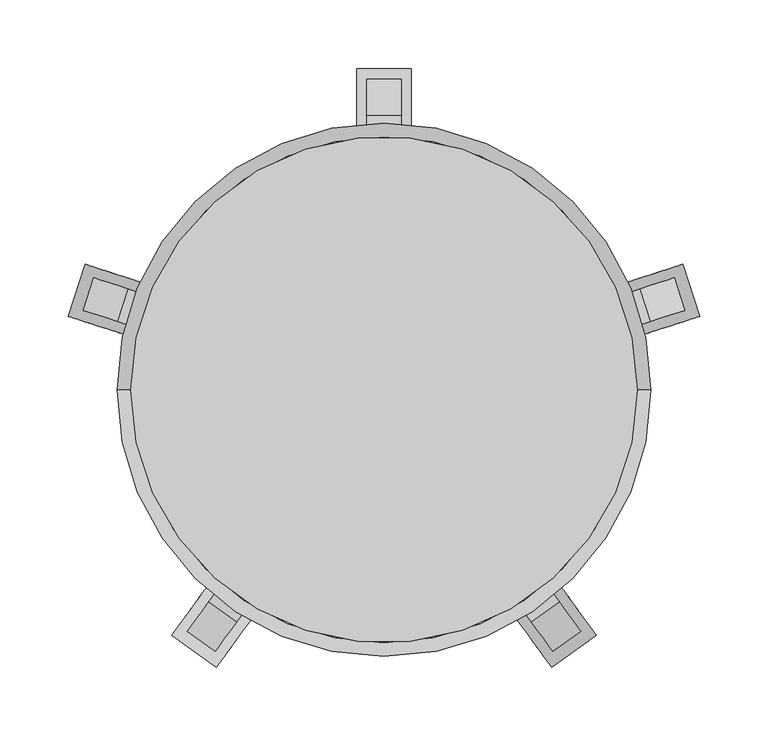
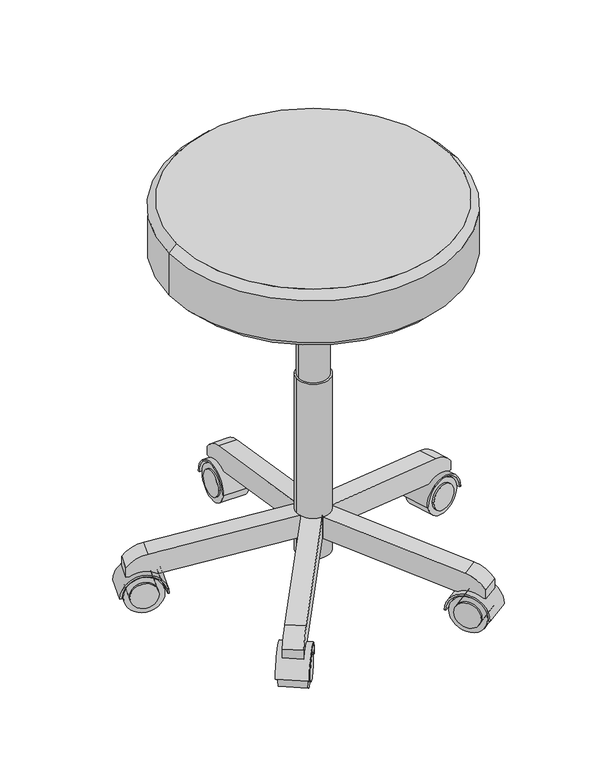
"""IFC4 building model written with IfcOpenShell, lengths in millimetres: proxy geometry, BIMHealth-Therapist_Stool-LOD2A-v1 : BIMHealth-Therapist_Stool-LOD2A-v1."""

import ifcopenshell
import ifcopenshell.guid

model = None  # the IFC model being written
_history = None  # IfcOwnerHistory: only IFC2X3 demands one
_inside = {}  # id of a spatial element -> (the spatial element, [elements in it])
_under = {}  # id of a project, library or spatial element -> (it, [spatial elements below it])
_declared = {}  # id of a project -> (the project, [libraries it declares])
_typed = {}  # id of a type object -> (the type object, [elements of that type])
_made_of = {}  # id of a material, layer set ... -> (it, [elements and type objects made of it])


def new_model(schema):
    """Start an empty IFC model of exactly this schema.

    Asked for "IFC4X3", IfcOpenShell would pick the latest addendum, in which some entities
    have other attributes; the version numbers below select the first issue.
    IFC2X3 requires an IfcOwnerHistory on every rooted entity: one is made here for all.
    """
    global model, _history
    if schema == "IFC4X3":
        model = ifcopenshell.file(schema_version=(4, 3, 0, 0))
    else:
        model = ifcopenshell.file(schema=schema)
    _inside.clear()
    _under.clear()
    _declared.clear()
    _typed.clear()
    _made_of.clear()
    _history = None
    if model.schema == "IFC2X3":
        org = make("IfcOrganization", Name="unknown")
        user = make(
            "IfcPersonAndOrganization",
            ThePerson=make("IfcPerson", FamilyName="unknown"),
            TheOrganization=org,
        )
        app = make(
            "IfcApplication",
            ApplicationDeveloper=org,
            Version="unknown",
            ApplicationFullName="unknown",
            ApplicationIdentifier="unknown",
        )
        _history = make(
            "IfcOwnerHistory",
            OwningUser=user,
            OwningApplication=app,
            ChangeAction="ADDED",
            CreationDate=0,
        )
    return model


def make(cls, **values):
    """One entity of the class cls with the attributes given. An attribute that is None is left unset."""
    return model.create_entity(
        cls, **{name: value for name, value in values.items() if value is not None}
    )


def rooted(cls, **values):
    """An entity with a GlobalId (a new one), such as an element, a storey or a relation."""
    return make(cls, GlobalId=ifcopenshell.guid.new(), OwnerHistory=_history, **values)


def si_unit(unit_type, name, prefix=None):
    """IfcSIUnit, for example si_unit("LENGTHUNIT", "METRE", prefix="MILLI")."""
    return make("IfcSIUnit", UnitType=unit_type, Prefix=prefix, Name=name)


def assignment(units):
    """IfcUnitAssignment: the units of a project."""
    return None if units is None else make("IfcUnitAssignment", Units=units)


def point(xyz):
    """IfcCartesianPoint."""
    return None if xyz is None else make("IfcCartesianPoint", Coordinates=xyz)


def direction(xyz):
    """IfcDirection."""
    return None if xyz is None else make("IfcDirection", DirectionRatios=xyz)


def frame(location, z_axis=None, x_axis=None):
    """IfcAxis2Placement3D, a coordinate frame: its origin and axes. An axis left out is left unset."""
    return make(
        "IfcAxis2Placement3D",
        Location=point(location),
        Axis=direction(z_axis),
        RefDirection=direction(x_axis),
    )


def frame_2d(location, x_axis=None):
    """IfcAxis2Placement2D, a coordinate frame in the plane: its origin and x axis."""
    return make(
        "IfcAxis2Placement2D", Location=point(location), RefDirection=direction(x_axis)
    )


def origin():
    """The frame at (0, 0, 0) with its axes left unset."""
    return frame((0.0, 0.0, 0.0))


def origin_2d():
    """The frame at (0, 0) in the plane with its x axis left unset."""
    return frame_2d((0.0, 0.0))


def place(relative_to, where):
    """IfcLocalPlacement: puts the frame where relative to a parent placement (None: the world)."""
    return make(
        "IfcLocalPlacement", PlacementRelTo=relative_to, RelativePlacement=where
    )


def context(
    kind, dimensions, precision=None, world=None, true_north=None, identifier=None
):
    """IfcGeometricRepresentationContext, for example the 3D "Model" context."""
    return make(
        "IfcGeometricRepresentationContext",
        ContextIdentifier=identifier,
        ContextType=kind,
        CoordinateSpaceDimension=dimensions,
        Precision=precision,
        WorldCoordinateSystem=world,
        TrueNorth=true_north,
    )


def project(units=None, contexts=None):
    """IfcProject with its units and contexts."""
    return rooted(
        "IfcProject",
        Name="project",
        RepresentationContexts=contexts,
        UnitsInContext=assignment(units),
    )


def spatial(cls, under=None, at=None, **own):
    """A site, building, storey or space (cls), placed at a placement, below another one or the project."""
    s = rooted(cls, ObjectPlacement=at, **own)
    if under is not None:
        _under.setdefault(under.id(), (under, []))[1].append(s)
    return s


def polyline(points):
    """IfcPolyline through the points."""
    return make("IfcPolyline", Points=[point(p) for p in points])


def circle_curve(where, radius):
    """IfcCircle in the frame where."""
    return make("IfcCircle", Position=where, Radius=radius)


def trimmed(basis, trim1, trim2, sense, master):
    """IfcTrimmedCurve: the piece of a basis curve between two trims."""
    return make(
        "IfcTrimmedCurve",
        BasisCurve=basis,
        Trim1=trim1,
        Trim2=trim2,
        SenseAgreement=sense,
        MasterRepresentation=master,
    )


def segment(curve, same_sense, transition):
    """IfcCompositeCurveSegment."""
    return make(
        "IfcCompositeCurveSegment",
        Transition=transition,
        SameSense=same_sense,
        ParentCurve=curve,
    )


def composite_curve(segments, self_intersect=None):
    """IfcCompositeCurve: segments joined end to end."""
    return make("IfcCompositeCurve", Segments=segments, SelfIntersect=self_intersect)


def outline(outer, holes=None, kind="AREA"):
    """IfcArbitraryClosedProfileDef: a profile drawn as a closed curve; with holes, ...WithVoids."""
    if holes is None:
        return make("IfcArbitraryClosedProfileDef", ProfileType=kind, OuterCurve=outer)
    return make(
        "IfcArbitraryProfileDefWithVoids",
        ProfileType=kind,
        OuterCurve=outer,
        InnerCurves=holes,
    )


def extrude(swept, where, along, depth):
    """IfcExtrudedAreaSolid: the profile swept, set in the frame where, extruded along a direction by depth."""
    return make(
        "IfcExtrudedAreaSolid",
        SweptArea=swept,
        Position=where,
        ExtrudedDirection=direction(along),
        Depth=depth,
    )


def faces_of(points, faces, orient=None, outer=None):
    """IfcFace entities. A face is a list of loops; a loop is a list of indices into points, from 0.

    orient and outer hold one flag for each loop. By default every Orientation is true, the
    first loop of a face is its IfcFaceOuterBound and the others are IfcFaceBound.
    """
    made = []
    for i, loops in enumerate(faces):
        bounds = []
        for j, loop in enumerate(loops):
            is_outer = j == 0 if outer is None else outer[i][j]
            bounds.append(
                make(
                    "IfcFaceOuterBound" if is_outer else "IfcFaceBound",
                    Bound=make("IfcPolyLoop", Polygon=[points[k] for k in loop]),
                    Orientation=True if orient is None else orient[i][j],
                )
            )
        made.append(make("IfcFace", Bounds=bounds))
    return made


def faceted_brep(points, faces, orient=None, outer=None, voids=None):
    """IfcFacetedBrep: a solid bounded by flat faces; with voids (closed shells), ...WithVoids."""
    shared = [point(p) for p in points]
    hull = make("IfcClosedShell", CfsFaces=faces_of(shared, faces, orient, outer))
    if voids is None:
        return make("IfcFacetedBrep", Outer=hull)
    return make(
        "IfcFacetedBrepWithVoids",
        Outer=hull,
        Voids=[
            make(cls, CfsFaces=faces_of(shared, fs, o, b)) for cls, fs, o, b in voids
        ],
    )


def shape(context_of_items, identifier, shape_type, items):
    """IfcShapeRepresentation: the items that make up one representation, for example the "Body"."""
    return make(
        "IfcShapeRepresentation",
        ContextOfItems=context_of_items,
        RepresentationIdentifier=identifier,
        RepresentationType=shape_type,
        Items=items,
    )


def source(mapping_origin, context_of_items, identifier, shape_type, items):
    """IfcRepresentationMap: a shape defined once, which mapped items show again and again."""
    return make(
        "IfcRepresentationMap",
        MappingOrigin=mapping_origin,
        MappedRepresentation=shape(context_of_items, identifier, shape_type, items),
    )


def transform(
    local_origin,
    x_axis=None,
    y_axis=None,
    z_axis=None,
    scale=None,
    scale2=None,
    scale3=None,
    uniform=True,
):
    """IfcCartesianTransformationOperator3D, or its non-uniform kind. x_axis, y_axis, z_axis: its Axis1, 2, 3."""
    if uniform:
        return make(
            "IfcCartesianTransformationOperator3D",
            Axis1=direction(x_axis),
            Axis2=direction(y_axis),
            LocalOrigin=point(local_origin),
            Scale=scale,
            Axis3=direction(z_axis),
        )
    return make(
        "IfcCartesianTransformationOperator3DnonUniform",
        Axis1=direction(x_axis),
        Axis2=direction(y_axis),
        LocalOrigin=point(local_origin),
        Scale=scale,
        Axis3=direction(z_axis),
        Scale2=scale2,
        Scale3=scale3,
    )


def mapped(mapping_source, mapping_target):
    """IfcMappedItem: shows the shape of a source again, moved by a transform."""
    return make(
        "IfcMappedItem", MappingSource=mapping_source, MappingTarget=mapping_target
    )


def made_of(thing, what):
    """Note that an element or type object is made of a material, layer set ...; save() writes the relation."""
    if what is not None:
        _made_of.setdefault(what.id(), (what, []))[1].append(thing)
    return thing


def element(
    cls,
    number,
    at=None,
    inside=None,
    cuts=None,
    type_object=None,
    material=None,
    context=None,
    identifier="Body",
    shape_type=None,
    held_by="IfcProductDefinitionShape",
    body=None,
    shapes=None,
    **own,
):
    """One element of the class cls, such as IfcWall. Its Tag is "e" and its number.

    at: its placement. inside: the storey or other place that contains it. cuts: it is an
    opening in that element (IfcRelVoidsElement). A single representation is given by context,
    identifier, shape_type and body (its items); several are given by shapes. held_by: the class
    of the entity that holds the representations. save() writes the other relations.
    """
    e = rooted(cls, Tag="e%d" % number, ObjectPlacement=at, **own)
    if body is not None:
        shapes = [shape(context, identifier, shape_type, body)]
    if shapes is not None:
        e.Representation = make(held_by, Representations=shapes)
    if inside is not None:
        _inside.setdefault(inside.id(), (inside, []))[1].append(e)
    if cuts is not None:
        rooted(
            "IfcRelVoidsElement", RelatingBuildingElement=cuts, RelatedOpeningElement=e
        )
    if type_object is not None:
        _typed.setdefault(type_object.id(), (type_object, []))[1].append(e)
    return made_of(e, material)


def aggregate(whole, parts):
    """IfcRelAggregates: a whole, such as a stair, and the parts it consists of."""
    return rooted("IfcRelAggregates", RelatingObject=whole, RelatedObjects=parts)


def save(model, path):
    """Write the relations noted so far, then the file.

    IfcRelAggregates (storeys below a building ...), IfcRelContainedInSpatialStructure (elements
    in a storey), IfcRelDefinesByType, IfcRelAssociatesMaterial and IfcRelDeclares: one each for
    every whole, place, type object, material and project.
    """
    for whole, parts in _under.values():
        aggregate(whole, parts)
    for where, things in _inside.values():
        rooted(
            "IfcRelContainedInSpatialStructure",
            RelatedElements=things,
            RelatingStructure=where,
        )
    for kind, things in _typed.values():
        rooted("IfcRelDefinesByType", RelatedObjects=things, RelatingType=kind)
    for what, things in _made_of.values():
        rooted("IfcRelAssociatesMaterial", RelatedObjects=things, RelatingMaterial=what)
    for by, libraries in _declared.values():
        rooted("IfcRelDeclares", RelatingContext=by, RelatedDefinitions=libraries)
    model.write(path)


def plane_surface(at):
    """IfcPlane: the flat surface through the origin of the frame at, square to its z axis."""
    return make("IfcPlane", Position=at)


def cylinder_surface(at, radius):
    """IfcCylindricalSurface: all points at the distance radius from the z axis of the frame at."""
    return make("IfcCylindricalSurface", Position=at, Radius=radius)


def revolved_surface(curve, axis_point, axis_direction):
    """IfcSurfaceOfRevolution: the curve turned about the line through axis_point along axis_direction."""
    return make(
        "IfcSurfaceOfRevolution",
        SweptCurve=make("IfcArbitraryOpenProfileDef", ProfileType="CURVE", Curve=curve),
        AxisPosition=make("IfcAxis1Placement", Location=point(axis_point), Axis=direction(axis_direction)),
    )


def advanced_brep(points, edges, surfaces, faces):
    """IfcAdvancedBrep: a solid bounded by faces that lie on surfaces and meet in shared edges.

    An edge is (start, end): straight between two places in points (the first is 0);
    or (start, end, curve); or (start, end, curve, False) where it runs against its curve.
    A face is (place in surfaces, loops), or (place, loops, False) where it looks against
    its surface's normal. A loop lists edges by number (the first is 1), with a minus sign
    where the edge is run from its end to its start. The first loop is the outer one.
    """
    corners = [point(p) for p in points]
    vertices = [make("IfcVertexPoint", VertexGeometry=c) for c in corners]
    made = []
    for start, end, *more in edges:
        made.append(
            make(
                "IfcEdgeCurve",
                EdgeStart=vertices[start],
                EdgeEnd=vertices[end],
                EdgeGeometry=more[0] if more else make("IfcPolyline", Points=[corners[start], corners[end]]),
                SameSense=more[1] if len(more) > 1 else True,
            )
        )
    hull = []
    for where, loops, *sense in faces:
        bounds = []
        for j, loop in enumerate(loops):
            ring = [make("IfcOrientedEdge", EdgeElement=made[abs(k) - 1], Orientation=k > 0) for k in loop]
            bounds.append(
                make(
                    "IfcFaceOuterBound" if j == 0 else "IfcFaceBound",
                    Bound=make("IfcEdgeLoop", EdgeList=ring),
                    Orientation=True,
                )
            )
        hull.append(make("IfcAdvancedFace", Bounds=bounds, FaceSurface=surfaces[where], SameSense=sense[0] if sense else True))
    return make("IfcAdvancedBrep", Outer=make("IfcClosedShell", CfsFaces=hull))


def generic_models_e5edc786(model_context):
    return source(origin(), model_context, "Body", "SolidModel", [
        extrude(outline(composite_curve([segment(trimmed(circle_curve(frame_2d((0.0, -17.5000001)), 17.5), [point((0.0, -35.0))], [point((0.0, 0.0))], False, "CARTESIAN"), True, "CONTINUOUS"), segment(trimmed(circle_curve(frame_2d((0.0, -17.5000001)), 17.5), [point((0.0, 0.0))], [point((0.0, -35.0))], False, "CARTESIAN"), True, "CONTINUOUS")], self_intersect=False)), frame((-185.942293, 39.3870689, 25.0), z_axis=(0.3090169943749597, 0.9510565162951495, 0.0), x_axis=(0.0, 0.0, 1.0)), (0.0, 0.0, 1.0), 40.0),
        extrude(outline(composite_curve([segment(trimmed(circle_curve(frame_2d((29.5, 0.0)), 27.5), [point((2.0, 0.0))], [point((57.0, 0.0))], True, "CARTESIAN"), True, "CONTINUOUS"), segment(polyline([(57.0, 0.0), (59.0, 0.0)]), True, "CONTINUOUS"), segment(trimmed(circle_curve(frame_2d((29.5, 0.0)), 29.5), [point((59.0, 0.0))], [point((0.0, 0.0))], False, "CARTESIAN"), True, "CONTINUOUS"), segment(polyline([(0.0, 0.0), (2.0, 0.0)]), True, "CONTINUOUS")], self_intersect=False)), frame((-230.6419493, 53.9108676, 25.0), z_axis=(0.3090169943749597, 0.9510565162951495, 0.0), x_axis=(0.9510565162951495, -0.3090169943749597, 0.0)), (0.0, 0.0, 1.0), 40.0),
        extrude(outline(composite_curve([segment(trimmed(circle_curve(frame_2d((0.0, -25.0)), 25.0), [point((0.0, -50.0))], [point((0.0, 0.0))], False, "CARTESIAN"), True, "CONTINUOUS"), segment(trimmed(circle_curve(frame_2d((0.0, -25.0)), 25.0), [point((0.0, 0.0))], [point((0.0, -50.0))], False, "CARTESIAN"), True, "CONTINUOUS")], self_intersect=False), holes=[composite_curve([segment(trimmed(circle_curve(frame_2d((0.0, -25.0)), 17.5), [point((0.0, -42.5))], [point((0.0, -7.4999999))], True, "CARTESIAN"), True, "CONTINUOUS"), segment(trimmed(circle_curve(frame_2d((0.0, -25.0)), 17.5), [point((0.0, -7.4999999))], [point((0.0, -42.5))], True, "CARTESIAN"), True, "CONTINUOUS")], self_intersect=False)]), frame((-178.0368267, 39.4470827, 25.0), z_axis=(0.3090169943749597, 0.9510565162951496, 0.0), x_axis=(0.0, 0.0, 1.0)), (0.0, 0.0, 1.0), 35.0),
        extrude(outline(composite_curve([segment(trimmed(circle_curve(frame_2d((0.0, -17.5000001)), 17.5), [point((0.0, -35.0))], [point((0.0, 0.0))], False, "CARTESIAN"), True, "CONTINUOUS"), segment(trimmed(circle_curve(frame_2d((0.0, -17.5000001)), 17.5), [point((0.0, 0.0))], [point((0.0, -35.0))], False, "CARTESIAN"), True, "CONTINUOUS")], self_intersect=False)), frame((185.942293, 39.3870689, 25.0), z_axis=(-0.3090169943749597, 0.9510565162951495, 0.0), x_axis=(0.0, 0.0, -1.0)), (0.0, 0.0, 1.0), 40.0),
        extrude(outline(composite_curve([segment(polyline([(0.0, 55.0), (0.0, 57.0)]), True, "CONTINUOUS"), segment(trimmed(circle_curve(frame_2d((0.0, 27.5)), 29.5), [point((0.0, 57.0))], [point((0.0, -2.0))], False, "CARTESIAN"), True, "CONTINUOUS"), segment(polyline([(0.0, -2.0), (0.0, 0.0)]), True, "CONTINUOUS"), segment(trimmed(circle_curve(frame_2d((0.0, 27.5)), 27.5), [point((0.0, 0.0))], [point((0.0, 55.0))], True, "CARTESIAN"), True, "CONTINUOUS")], self_intersect=False)), frame((176.4317279, 36.2968989, 25.0), z_axis=(-0.3090169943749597, 0.9510565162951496, 0.0), x_axis=(0.0, 0.0, 1.0)), (0.0, 0.0, 1.0), 40.0),
        extrude(outline(composite_curve([segment(trimmed(circle_curve(frame_2d((0.0, -25.0)), 25.0), [point((0.0, -50.0))], [point((0.0, 0.0))], False, "CARTESIAN"), True, "CONTINUOUS"), segment(trimmed(circle_curve(frame_2d((0.0, -25.0)), 25.0), [point((0.0, 0.0))], [point((0.0, -50.0))], False, "CARTESIAN"), True, "CONTINUOUS")], self_intersect=False), holes=[composite_curve([segment(trimmed(circle_curve(frame_2d((0.0, -25.0)), 17.5), [point((0.0, -42.5))], [point((0.0, -7.4999999))], True, "CARTESIAN"), True, "CONTINUOUS"), segment(trimmed(circle_curve(frame_2d((0.0, -25.0)), 17.5), [point((0.0, -7.4999999))], [point((0.0, -42.5))], True, "CARTESIAN"), True, "CONTINUOUS")], self_intersect=False)]), frame((178.0368267, 39.4470827, 25.0), z_axis=(-0.3090169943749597, 0.9510565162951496, 0.0), x_axis=(0.0, 0.0, -1.0)), (0.0, 0.0, 1.0), 35.0),
        extrude(outline(composite_curve([segment(trimmed(circle_curve(frame_2d((0.0, -17.5)), 17.5), [point((0.0, -35.0))], [point((0.0, 0.0))], False, "CARTESIAN"), True, "CONTINUOUS"), segment(trimmed(circle_curve(frame_2d((0.0, -17.5)), 17.5), [point((0.0, 0.0))], [point((0.0, -35.0))], False, "CARTESIAN"), True, "CONTINUOUS")], self_intersect=False)), frame((95.0093576, -164.7951944, 25.0), z_axis=(0.8090169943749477, 0.5877852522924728, 0.0), x_axis=(0.0, 0.0, -1.0)), (0.0, 0.0, 1.0), 40.0),
        extrude(outline(composite_curve([segment(polyline([(-2.0, 0.0), (0.0, 0.0)]), True, "CONTINUOUS"), segment(trimmed(circle_curve(frame_2d((-29.5000001, 0.0)), 29.5), [point((0.0, 0.0))], [point((-59.0, 0.0))], False, "CARTESIAN"), True, "CONTINUOUS"), segment(polyline([(-59.0, 0.0), (-57.0, 0.0)]), True, "CONTINUOUS"), segment(trimmed(circle_curve(frame_2d((-29.5000001, 0.0)), 27.5), [point((-57.0, 0.0))], [point((-2.0, 0.0))], True, "CARTESIAN"), True, "CONTINUOUS")], self_intersect=False)), frame((122.6352645, -202.8189932, 25.0), z_axis=(0.8090169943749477, 0.5877852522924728, 0.0), x_axis=(0.5877852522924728, -0.8090169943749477, 0.0)), (0.0, 0.0, 1.0), 40.0),
        extrude(outline(composite_curve([segment(trimmed(circle_curve(frame_2d((0.0, -25.0)), 25.0), [point((0.0, -50.0000001))], [point((0.0, 0.0))], False, "CARTESIAN"), True, "CONTINUOUS"), segment(trimmed(circle_curve(frame_2d((0.0, -25.0)), 25.0), [point((0.0, 0.0))], [point((0.0, -50.0000001))], False, "CARTESIAN"), True, "CONTINUOUS")], self_intersect=False), holes=[composite_curve([segment(trimmed(circle_curve(frame_2d((0.0, -25.0)), 17.5), [point((0.0, -42.5))], [point((0.0, -7.5))], True, "CARTESIAN"), True, "CONTINUOUS"), segment(trimmed(circle_curve(frame_2d((0.0, -25.0)), 17.5), [point((0.0, -7.5))], [point((0.0, -42.5))], True, "CARTESIAN"), True, "CONTINUOUS")], self_intersect=False)]), frame((92.6235107, -157.2581038, 25.0), z_axis=(0.8090169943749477, 0.5877852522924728, 0.0), x_axis=(0.0, 0.0, -1.0)), (0.0, 0.0, 1.0), 35.0),
        extrude(outline(composite_curve([segment(trimmed(circle_curve(frame_2d((0.0, -17.5)), 17.5), [point((0.0, -35.0))], [point((0.0, 0.0))], False, "CARTESIAN"), True, "CONTINUOUS"), segment(trimmed(circle_curve(frame_2d((0.0, -17.5)), 17.5), [point((0.0, 0.0))], [point((0.0, -35.0))], False, "CARTESIAN"), True, "CONTINUOUS")], self_intersect=False)), frame((-95.0093576, -164.7951944, 25.0), z_axis=(-0.8090169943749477, 0.5877852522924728, 0.0), x_axis=(0.0, 0.0, 1.0)), (0.0, 0.0, 1.0), 40.0),
        extrude(outline(composite_curve([segment(trimmed(circle_curve(frame_2d((0.0, 27.4999999)), 27.5), [point((0.0, 55.0))], [point((0.0, 0.0))], True, "CARTESIAN"), True, "CONTINUOUS"), segment(polyline([(0.0, 0.0), (0.0, -2.0)]), True, "CONTINUOUS"), segment(trimmed(circle_curve(frame_2d((0.0, 27.4999999)), 29.5), [point((0.0, -2.0))], [point((0.0, 57.0))], False, "CARTESIAN"), True, "CONTINUOUS"), segment(polyline([(0.0, 57.0), (0.0, 55.0)]), True, "CONTINUOUS")], self_intersect=False)), frame((-89.1315051, -156.7050245, 25.0), z_axis=(-0.8090169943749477, 0.5877852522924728, 0.0), x_axis=(0.0, 0.0, -1.0)), (0.0, 0.0, 1.0), 40.0),
        extrude(outline(composite_curve([segment(trimmed(circle_curve(frame_2d((205.6508009, 25.0)), 17.5), [point((223.1508009, 25.0))], [point((188.1508009, 25.0))], False, "CARTESIAN"), True, "CONTINUOUS"), segment(trimmed(circle_curve(frame_2d((205.6508009, 25.0)), 17.5), [point((188.1508009, 25.0))], [point((223.1508009, 25.0))], False, "CARTESIAN"), True, "CONTINUOUS")], self_intersect=False)), frame((-20.0, 0.0, 0.0), z_axis=(1.0, 0.0, 0.0), x_axis=(0.0, 1.0, 0.0)), (0.0, 0.0, 1.0), 40.0),
        extrude(outline(composite_curve([segment(trimmed(circle_curve(frame_2d((205.6508009, 25.0)), 27.5), [point((233.1508009, 25.0))], [point((178.1508009, 25.0))], True, "CARTESIAN"), True, "CONTINUOUS"), segment(polyline([(178.1508009, 25.0), (176.1508009, 25.0)]), True, "CONTINUOUS"), segment(trimmed(circle_curve(frame_2d((205.6508009, 25.0)), 29.5), [point((176.1508009, 25.0))], [point((235.1508009, 25.0))], False, "CARTESIAN"), True, "CONTINUOUS"), segment(polyline([(235.1508009, 25.0), (233.1508009, 25.0)]), True, "CONTINUOUS")], self_intersect=False)), frame((-20.0, 0.0, 0.0), z_axis=(1.0, 0.0, 0.0), x_axis=(0.0, 1.0, 0.0)), (0.0, 0.0, 1.0), 40.0),
        extrude(outline(composite_curve([segment(trimmed(circle_curve(frame_2d((205.6508009, 25.0)), 25.0), [point((230.6508009, 25.0))], [point((180.6508009, 25.0))], False, "CARTESIAN"), True, "CONTINUOUS"), segment(trimmed(circle_curve(frame_2d((205.6508009, 25.0)), 25.0), [point((180.6508009, 25.0))], [point((230.6508009, 25.0))], False, "CARTESIAN"), True, "CONTINUOUS")], self_intersect=False), holes=[composite_curve([segment(trimmed(circle_curve(frame_2d((205.6508009, 25.0)), 17.5), [point((223.1508009, 25.0))], [point((188.1508009, 25.0))], True, "CARTESIAN"), True, "CONTINUOUS"), segment(trimmed(circle_curve(frame_2d((205.6508009, 25.0)), 17.5), [point((188.1508009, 25.0))], [point((223.1508009, 25.0))], True, "CARTESIAN"), True, "CONTINUOUS")], self_intersect=False)]), frame((-17.5, 0.0, 0.0), z_axis=(1.0, 0.0, 0.0), x_axis=(0.0, 1.0, 0.0)), (0.0, 0.0, 1.0), 35.0),
        extrude(outline(composite_curve([segment(polyline([(-203.081018, -1e-07), (0.0, 0.0), (-4.8975538, -30.9502804), (-194.4436151, -30.9770998), (-233.9073651, -24.7323797), (-231.9536812, -12.3859988)]), True, "CONTINUOUS"), segment(trimmed(circle_curve(frame_2d((-203.0810181, -39.845137)), 39.8451369), [point((-231.9536812, -12.3859988))], [point((-203.081018, -1e-07))], False, "CARTESIAN"), True, "CONTINUOUS")], self_intersect=False)), frame((3.8627124, -11.8882065, 110.9869146), z_axis=(-0.30901699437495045, 0.9510565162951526, 0.0), x_axis=(-0.9393684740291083, -0.3052193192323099, 0.15629471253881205)), (0.0, 0.0, 1.0), 25.0),
        extrude(outline(composite_curve([segment(trimmed(circle_curve(frame_2d((0.0, -39.8451369)), 39.8451369), [point((-39.3554587, -33.6175527))], [point((-22.6090335, -7.0355873))], False, "CARTESIAN"), True, "CONTINUOUS"), segment(polyline([(-22.6090335, -7.0355873), (-10.1090335, -7.0355873), (-10.1090335, -46.990363), (-39.7605705, -234.2027995), (-71.0959481, -234.2027995), (-39.3554587, -33.6175527)]), True, "CONTINUOUS")], self_intersect=False)), frame((-226.602811, 60.4844387, 39.8909665), z_axis=(0.3090169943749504, 0.9510565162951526, 0.0), x_axis=(0.0, 0.0, -1.0)), (0.0, 0.0, 1.0), 25.0),
        extrude(outline(composite_curve([segment(trimmed(circle_curve(frame_2d((0.0, -39.845137)), 39.8451369), [point((-39.3554587, -33.6175527))], [point((-22.6090335, -7.0355874))], False, "CARTESIAN"), True, "CONTINUOUS"), segment(polyline([(-22.6090335, -7.0355874), (-10.1090335, -7.0355874), (-10.1090335, -46.9903631), (-39.7605705, -234.2027995), (-71.0959481, -234.2027995), (-39.3554587, -33.6175527)]), True, "CONTINUOUS")], self_intersect=False)), frame((-127.5482392, -196.8213606, 39.8909665), z_axis=(-0.8090169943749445, 0.5877852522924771, 0.0), x_axis=(0.0, 0.0, -1.0)), (0.0, 0.0, 1.0), 25.0),
        extrude(outline(composite_curve([segment(polyline([(-203.081018, -1e-07), (0.0, 0.0), (-4.8975538, -30.9502804), (-194.4436149, -30.9770998), (-233.907365, -24.7323797), (-231.9536811, -12.3859989)]), True, "CONTINUOUS"), segment(trimmed(circle_curve(frame_2d((-203.081018, -39.845137)), 39.8451369), [point((-231.9536811, -12.3859989))], [point((-203.081018, -1e-07))], False, "CARTESIAN"), True, "CONTINUOUS")], self_intersect=False)), frame((-10.1127124, -7.3473157, 110.9869146), z_axis=(0.8090169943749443, 0.5877852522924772, 0.0), x_axis=(-0.5805616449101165, 0.7990745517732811, 0.15629471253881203)), (0.0, 0.0, 1.0), 25.0),
        extrude(outline(composite_curve([segment(trimmed(circle_curve(frame_2d((194.3576625, 39.8909665)), 39.8451369), [point((200.5852468, 79.2464252))], [point((227.1672121, 62.5))], False, "CARTESIAN"), True, "CONTINUOUS"), segment(polyline([(227.1672121, 62.5), (227.1672121, 50.0), (187.2124365, 50.0), (0.0, 79.651537), (0.0, 110.9869146), (200.5852468, 79.2464252)]), True, "CONTINUOUS")], self_intersect=False)), frame((-12.5, 0.0, 0.0), z_axis=(1.0, 0.0, 0.0), x_axis=(0.0, 1.0, 0.0)), (0.0, 0.0, 1.0), 25.0),
        extrude(outline(composite_curve([segment(trimmed(circle_curve(origin_2d(), 22.5), [point((-22.5, 0.0))], [point((22.5, 0.0))], False, "CARTESIAN"), True, "CONTINUOUS"), segment(trimmed(circle_curve(origin_2d(), 22.5), [point((22.5, 0.0))], [point((-22.5, 0.0))], False, "CARTESIAN"), True, "CONTINUOUS")], self_intersect=False)), frame((0.0, 0.0, 50.0), z_axis=(0.0, 0.0, 1.0), x_axis=(1.0, 0.0, 0.0)), (0.0, 0.0, 1.0), 250.0),
        extrude(outline(composite_curve([segment(trimmed(circle_curve(origin_2d(), 20.0), [point((-20.0, 0.0))], [point((20.0, 0.0))], False, "CARTESIAN"), True, "CONTINUOUS"), segment(trimmed(circle_curve(origin_2d(), 20.0), [point((20.0, 0.0))], [point((-20.0, 0.0))], False, "CARTESIAN"), True, "CONTINUOUS")], self_intersect=False)), frame((0.0, 0.0, 300.0), z_axis=(0.0, 0.0, 1.0), x_axis=(1.0, 0.0, 0.0)), (0.0, 0.0, 1.0), 110.0),
        faceted_brep([(65.0, 65.0, 460.0), (-65.0, 65.0, 460.0), (-65.0, -65.0, 460.0), (65.0, -65.0, 460.0), (35.0, 35.0, 410.0), (35.0, -35.0, 410.0), (-35.0, -35.0, 410.0), (-35.0, 35.0, 410.0)], [[[0, 1, 2, 3]], [[4, 5, 6, 7]], [[4, 7, 1, 0]], [[7, 6, 2, 1]], [[6, 5, 3, 2]], [[5, 4, 0, 3]]]),
        extrude(outline(polyline([(75.0, 75.0), (75.0, -75.0), (-75.0, -75.0), (-75.0, 75.0), (75.0, 75.0)])), frame((0.0, 0.0, 460.0), z_axis=(0.0, 0.0, 1.0), x_axis=(1.0, 0.0, 0.0)), (0.0, 0.0, 1.0), 10.0),
        advanced_brep(
        [(-185.0, 0.0, 550.0), (185.0, 0.0, 550.0), (-195.0, 0.0, 540.0), (195.0, 0.0, 540.0), (-185.0, 0.0, 470.0), (185.0, 0.0, 470.0), (195.0, 0.0, 480.0), (-195.0, 0.0, 480.0)],
        [
            (0, 1, circle_curve(frame((0.0, 0.0, 550.0), z_axis=(0.0, 0.0, 1.0), x_axis=(1.0, 0.0, 0.0)), 185.0)),
            (1, 0, circle_curve(frame((0.0, 0.0, 550.0), z_axis=(0.0, 0.0, 1.0), x_axis=(-1.0, 0.0, 0.0)), 185.0)),
            (0, 2),
            (2, 3, circle_curve(frame((0.0, 0.0, 540.0), z_axis=(0.0, 0.0, 1.0), x_axis=(1.0, 0.0, 0.0)), 195.0)),
            (3, 1),
            (3, 2, circle_curve(frame((0.0, 0.0, 540.0), z_axis=(0.0, 0.0, 1.0), x_axis=(-1.0, 0.0, 0.0)), 195.0)),
            (4, 5, circle_curve(frame((0.0, 0.0, 470.0), z_axis=(0.0, 0.0, -1.0), x_axis=(1.0, 0.0, 0.0)), 185.0)),
            (5, 4, circle_curve(frame((0.0, 0.0, 470.0), z_axis=(0.0, 0.0, -1.0), x_axis=(-1.0, 0.0, 0.0)), 185.0)),
            (5, 6),
            (6, 7, circle_curve(frame((0.0, 0.0, 480.0), z_axis=(0.0, 0.0, -1.0), x_axis=(-1.0, 0.0, 0.0)), 195.0)),
            (7, 4),
            (7, 6, circle_curve(frame((0.0, 0.0, 480.0), z_axis=(0.0, 0.0, -1.0), x_axis=(1.0, 0.0, 0.0)), 195.0)),
            (2, 7),
            (6, 3),
        ],
        [
            plane_surface(frame((0.0, 0.0, 550.0), z_axis=(0.0, 0.0, 1.0), x_axis=(0.0, -1.0, 0.0))),
            revolved_surface(polyline([(-185.0, 0.0, 550.0), (-195.0, 0.0, 540.0)]), (0.0, 0.0, 735.0), (0.0, 0.0, -1.0)),
            revolved_surface(polyline([(185.0, 0.0, 550.0), (195.0, 0.0, 540.0)]), (0.0, 0.0, 735.0), (0.0, 0.0, -1.0)),
            plane_surface(frame((0.0, 0.0, 470.0), z_axis=(0.0, 0.0, -1.0), x_axis=(0.0, -1.0, 0.0))),
            revolved_surface(polyline([(185.0, 0.0, 470.0), (195.0, 0.0, 480.0)]), (0.0, 0.0, 285.0), (0.0, 0.0, 1.0)),
            revolved_surface(polyline([(-185.0, 0.0, 470.0), (-195.0, 0.0, 480.0)]), (0.0, 0.0, 285.0), (0.0, 0.0, 1.0)),
            cylinder_surface(frame((0.0, 0.0, 480.0), z_axis=(0.0, 0.0, 1.0), x_axis=(1.0, 0.0, 0.0)), 195.0),
        ],
        [
            (0, [[1, 2]]),
            (1, [[-1, 3, 4, 5]]),
            (2, [[-2, -5, 6, -3]]),
            (3, [[7, 8]]),
            (4, [[-8, 9, 10, 11]]),
            (5, [[-7, -11, 12, -9]]),
            (6, [[13, -10, 14, -4]]),
            (6, [[-13, -6, -14, -12]]),
        ],
    ),
        extrude(outline(composite_curve([segment(trimmed(circle_curve(frame_2d((0.0, -25.0)), 25.0), [point((0.0, -50.0000001))], [point((0.0, 0.0))], False, "CARTESIAN"), True, "CONTINUOUS"), segment(trimmed(circle_curve(frame_2d((0.0, -25.0)), 25.0), [point((0.0, 0.0))], [point((0.0, -50.0000001))], False, "CARTESIAN"), True, "CONTINUOUS")], self_intersect=False), holes=[composite_curve([segment(trimmed(circle_curve(frame_2d((0.0, -25.0)), 17.5), [point((0.0, -42.5))], [point((0.0, -7.5))], True, "CARTESIAN"), True, "CONTINUOUS"), segment(trimmed(circle_curve(frame_2d((0.0, -25.0)), 17.5), [point((0.0, -7.5))], [point((0.0, -42.5))], True, "CARTESIAN"), True, "CONTINUOUS")], self_intersect=False)]), frame((-92.6235107, -157.2581038, 25.0), z_axis=(-0.8090169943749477, 0.5877852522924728, 0.0), x_axis=(0.0, 0.0, 1.0)), (0.0, 0.0, 1.0), 35.0),
    ])


if __name__ == "__main__":
    model = new_model("IFC4")
    model_context = context("Model", 3, world=origin())
    ifc_project = project(units=[si_unit("LENGTHUNIT", "METRE", prefix="MILLI")], contexts=[model_context])
    site = spatial("IfcSite", under=ifc_project)
    building = spatial("IfcBuilding", under=site)
    placement = place(None, origin())
    generic_models_shape = generic_models_e5edc786(model_context)
    element("IfcBuildingElementProxy", 1, Name="BIMHealth-Therapist_Stool-LOD2A-v1 : BIMHealth-Therapist_Stool-LOD2A-v1", ObjectType="BIMHealth-Therapist_Stool-LOD2A-v1 : BIMHealth-Therapist_Stool-LOD2A-v1", at=placement, inside=building, context=model_context, shape_type="MappedRepresentation", body=[
        mapped(generic_models_shape, transform((0.0, 0.0, 0.0), x_axis=(1.0, 0.0, 0.0), y_axis=(0.0, 1.0, 0.0), z_axis=(0.0, 0.0, 1.0))),
    ])
    save(model, "model.ifc")
